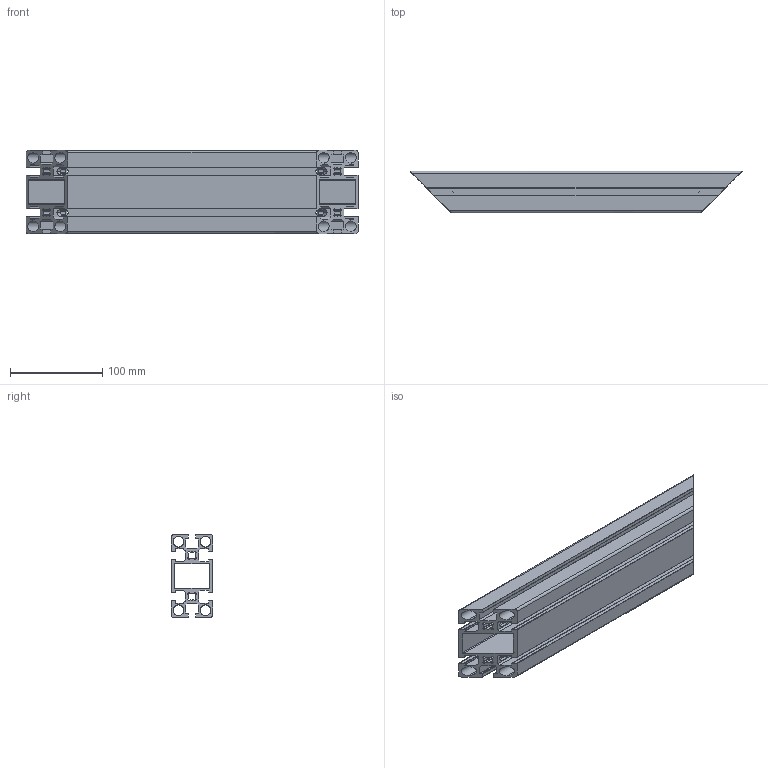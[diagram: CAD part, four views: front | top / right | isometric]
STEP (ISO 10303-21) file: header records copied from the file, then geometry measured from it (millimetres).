
FILE_DESCRIPTION (( 'STEP AP214' ), '1' );
FILE_NAME ('1.5037 Kulmatuki 90.STEP', '2024-10-08T13:20:26', ( '' ), ( '' ), 'SwSTEP 2.0', 'SolidWorks 2024', '' );
FILE_SCHEMA (( 'AUTOMOTIVE_DESIGN' ));
Length unit declared in the file: millimetre
Products named in the file (1): 1.5037 Kulmatuki 90
Bounding box: 360 x 45 x 90 mm (x, y, z)
Volume: 424359.7 mm3; surface area: 269466.8 mm2
Topology: 1 solids, 1 shells, 464 faces, 1422 edges, 948 vertices
Faces by surface type: cylinder 270, plane 194
Entity records: 16845 total; most frequent: CARTESIAN_POINT 5807, ORIENTED_EDGE 2844, DIRECTION 1700, EDGE_CURVE 1422, VERTEX_POINT 948, LINE 722, VECTOR 722, AXIS2_PLACEMENT_3D 489
